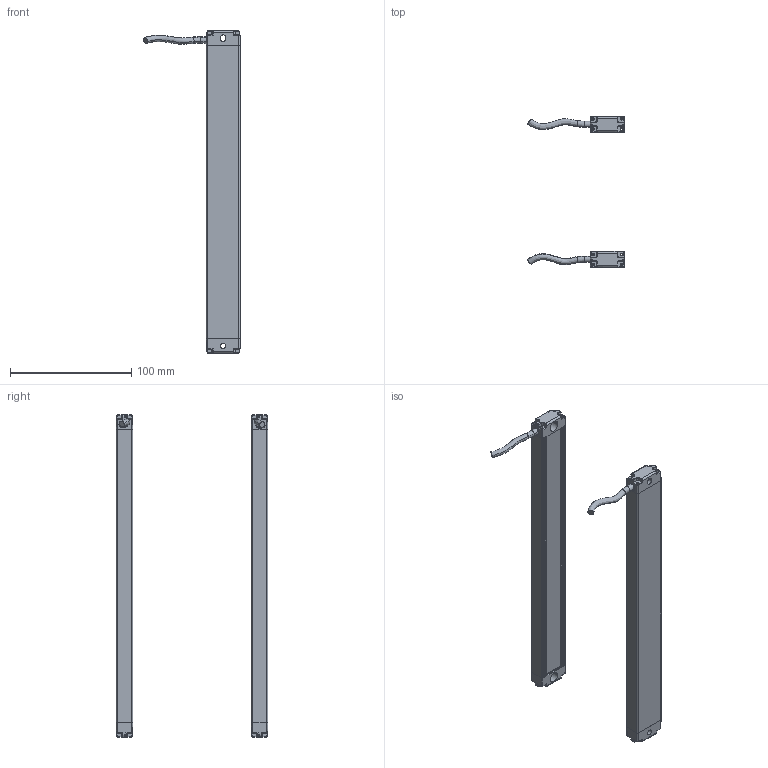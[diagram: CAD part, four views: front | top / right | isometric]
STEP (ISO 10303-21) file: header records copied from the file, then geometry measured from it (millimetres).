
FILE_DESCRIPTION(/* description */ (''),/* implementation_level */ '2;1');
FILE_NAME(/* name */ '0640（13x28w).stp',/* time_stamp */ '2020-07-14T20:04:23+08:00',/* author */ (''),/* organization */ (''),/* preprocessor_version */ 'ST-DEVELOPER v16',/* originating_system */ 'SIEMENS PLM Software NX 10.0',/* authorisation */ '');
FILE_SCHEMA (('AP203_CONFIGURATION_CONTROLLED_3D_DESIGN_OF_MECHANICAL_PARTS_AND_ASSEMBLIES_MIM_LF { 1 0 10303 403 2 1 2}'));
Length unit declared in the file: millimetre
Products named in the file (1): Admi58A03253m86x
Bounding box: 79.6 x 125.02 x 266 mm (x, y, z)
Volume: 80360.1 mm3; surface area: 106026.9 mm2
Topology: 10 solids, 10 shells, 760 faces, 2150 edges, 1419 vertices
Faces by surface type: plane 356, cylinder 312, torus 52, bspline 40
Entity records: 28251 total; most frequent: CARTESIAN_POINT 8715, ORIENTED_EDGE 4300, DIRECTION 3785, EDGE_CURVE 2150, VERTEX_POINT 1419, AXIS2_PLACEMENT_3D 1285, LINE 1215, VECTOR 1215
